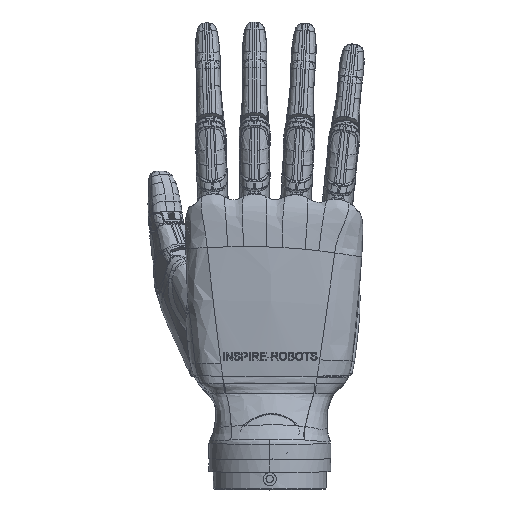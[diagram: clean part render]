
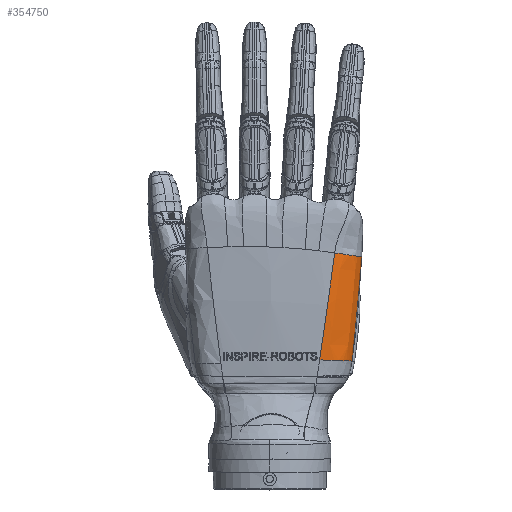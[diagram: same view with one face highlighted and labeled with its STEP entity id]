
A CAD part, front view. The second image highlights one B-rep face of the part: STEP entity #354750.
In plain terms, the highlighted free-form (B-spline) face has degree [5, 5] with [6, 8] control points.
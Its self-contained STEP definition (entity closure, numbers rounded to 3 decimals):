
#13976 = CARTESIAN_POINT ( 'NONE',  ( 29.061, -19.487, 70.16 ) ) ;
#16056 = CARTESIAN_POINT ( 'NONE',  ( 41.82, -14.111, 94.806 ) ) ;
#18130 = CARTESIAN_POINT ( 'NONE',  ( 38.441, -7.92, 53.319 ) ) ;
#18694 = EDGE_CURVE ( 'NONE', #392304, #359416, #75273, .T. ) ;
#23488 = B_SPLINE_CURVE_WITH_KNOTS ( 'NONE', 5,
 ( #178738, #225265, #227339, #564537, #275754, #613015 ),
 .UNSPECIFIED., .F., .F.,
 ( 6, 6 ),
 ( 0., 1. ),
 .UNSPECIFIED. ) ;
#44145 = B_SPLINE_SURFACE_WITH_KNOTS ( 'NONE', 5, 5, ( 
 ( #201704, #60417, #397713, #108720, #446190, #157282, #494625, #205836 ),
 ( #543114, #254336, #591509, #302774, #13976, #351213, #62502, #399754 ),
 ( #110798, #448259, #159338, #496694, #207885, #545166, #256421, #593593 ),
 ( #304856, #16056, #353309, #64578, #401852, #112867, #450362, #161423 ),
 ( #498767, #209971, #547250, #258514, #595660, #306941, #18130, #355398 ),
 ( #66623, #403948, #114967, #452451, #163512, #500868, #212054, #549339 ) ),
 .UNSPECIFIED., .F., .F., .F.,
 ( 6, 6 ),
 ( 6, 1, 1, 6 ),
 ( 0., 1. ),
 ( 0., 0.333, 0.667, 1. ),
 .UNSPECIFIED. ) ;
#60417 = CARTESIAN_POINT ( 'NONE',  ( 29.699, -19.683, 96.458 ) ) ;
#62502 = CARTESIAN_POINT ( 'NONE',  ( 26.676, -18.471, 53.798 ) ) ;
#64578 = CARTESIAN_POINT ( 'NONE',  ( 40.835, -13.685, 78.928 ) ) ;
#66623 = CARTESIAN_POINT ( 'NONE',  ( 42.482, -6.356, 97.891 ) ) ;
#75273 = B_SPLINE_CURVE_WITH_KNOTS ( 'NONE', 5,
 ( #228432, #565579, #517185, #179822, #468713, #131291 ),
 .UNSPECIFIED., .F., .F.,
 ( 6, 6 ),
 ( 0., 1. ),
 .UNSPECIFIED. ) ;
#104141 = CARTESIAN_POINT ( 'NONE',  ( 36.16, -18.556, 98.816 ) ) ;
#108720 = CARTESIAN_POINT ( 'NONE',  ( 27.492, -20.113, 80.206 ) ) ;
#110798 = CARTESIAN_POINT ( 'NONE',  ( 36.16, -18.556, 98.816 ) ) ;
#112867 = CARTESIAN_POINT ( 'NONE',  ( 39.037, -13.14, 59.808 ) ) ;
#114967 = CARTESIAN_POINT ( 'NONE',  ( 41.92, -6.289, 88.384 ) ) ;
#121302 = CARTESIAN_POINT ( 'NONE',  ( 23.202, -18.591, 50.611 ) ) ;
#131291 = CARTESIAN_POINT ( 'NONE',  ( 23.202, -18.591, 50.611 ) ) ;
#133416 = CARTESIAN_POINT ( 'NONE',  ( 24.657, -19.452, 60.601 ) ) ;
#152646 = CARTESIAN_POINT ( 'NONE',  ( 42.366, -9.671, 97.901 ) ) ;
#157282 = CARTESIAN_POINT ( 'NONE',  ( 24.654, -19.379, 60.566 ) ) ;
#159338 = CARTESIAN_POINT ( 'NONE',  ( 35.3, -18.884, 89.184 ) ) ;
#161423 = CARTESIAN_POINT ( 'NONE',  ( 37.78, -12.672, 50.122 ) ) ;
#163512 = CARTESIAN_POINT ( 'NONE',  ( 40.386, -6.154, 69.35 ) ) ;
#178738 = CARTESIAN_POINT ( 'NONE',  ( 42.482, -6.356, 97.891 ) ) ;
#179822 = CARTESIAN_POINT ( 'NONE',  ( 31.358, -17.407, 50.304 ) ) ;
#201704 = CARTESIAN_POINT ( 'NONE',  ( 30.121, -19.506, 99.706 ) ) ;
#205836 = CARTESIAN_POINT ( 'NONE',  ( 23.202, -18.591, 50.611 ) ) ;
#207885 = CARTESIAN_POINT ( 'NONE',  ( 33.631, -18.761, 69.844 ) ) ;
#209971 = CARTESIAN_POINT ( 'NONE',  ( 42.189, -9.763, 94.733 ) ) ;
#210073 = VERTEX_POINT ( 'NONE', #286289 ) ;
#212054 = CARTESIAN_POINT ( 'NONE',  ( 38.497, -6.039, 53.308 ) ) ;
#225265 = CARTESIAN_POINT ( 'NONE',  ( 41.945, -6.287, 88.083 ) ) ;
#227339 = CARTESIAN_POINT ( 'NONE',  ( 41.211, -6.217, 78.293 ) ) ;
#228432 = CARTESIAN_POINT ( 'NONE',  ( 38.031, -6.016, 50.072 ) ) ;
#230563 = CARTESIAN_POINT ( 'NONE',  ( 26.097, -19.983, 70.434 ) ) ;
#246041 = EDGE_CURVE ( 'NONE', #210073, #306547, #454461, .T. ) ;
#254336 = CARTESIAN_POINT ( 'NONE',  ( 32.635, -19.245, 96.054 ) ) ;
#256421 = CARTESIAN_POINT ( 'NONE',  ( 31.774, -17.698, 53.58 ) ) ;
#258514 = CARTESIAN_POINT ( 'NONE',  ( 41.134, -9.094, 78.892 ) ) ;
#275754 = CARTESIAN_POINT ( 'NONE',  ( 39.321, -6.08, 59.024 ) ) ;
#278982 = CARTESIAN_POINT ( 'NONE',  ( 28.854, -20.038, 89.961 ) ) ;
#286289 = CARTESIAN_POINT ( 'NONE',  ( 30.121, -19.506, 99.706 ) ) ;
#302774 = CARTESIAN_POINT ( 'NONE',  ( 30.394, -19.678, 79.897 ) ) ;
#304856 = CARTESIAN_POINT ( 'NONE',  ( 42.019, -13.651, 97.925 ) ) ;
#306547 = VERTEX_POINT ( 'NONE', #474000 ) ;
#306941 = CARTESIAN_POINT ( 'NONE',  ( 39.271, -8.255, 59.765 ) ) ;
#337796 = ORIENTED_EDGE ( 'NONE', *, *, #18694, .F. ) ;
#341125 = ORIENTED_EDGE ( 'NONE', *, *, #460082, .F. ) ;
#344531 = CARTESIAN_POINT ( 'NONE',  ( 30.121, -19.506, 99.706 ) ) ;
#351213 = CARTESIAN_POINT ( 'NONE',  ( 27.653, -18.964, 60.373 ) ) ;
#353309 = CARTESIAN_POINT ( 'NONE',  ( 41.442, -14.288, 88.492 ) ) ;
#354750 = ADVANCED_FACE ( 'NONE', ( #509627 ), #44145, .F. ) ;
#355398 = CARTESIAN_POINT ( 'NONE',  ( 37.98, -7.744, 50.082 ) ) ;
#359416 = VERTEX_POINT ( 'NONE', #121302 ) ;
#371666 = B_SPLINE_CURVE_WITH_KNOTS ( 'NONE', 5,
 ( #470821, #133416, #230563, #567706, #278982, #616233 ),
 .UNSPECIFIED., .F., .F.,
 ( 6, 6 ),
 ( 0., 1. ),
 .UNSPECIFIED. ) ;
#392304 = VERTEX_POINT ( 'NONE', #550418 ) ;
#394531 = ORIENTED_EDGE ( 'NONE', *, *, #430915, .F. ) ;
#397713 = CARTESIAN_POINT ( 'NONE',  ( 28.836, -19.955, 89.961 ) ) ;
#399754 = CARTESIAN_POINT ( 'NONE',  ( 26.177, -18.189, 50.496 ) ) ;
#401852 = CARTESIAN_POINT ( 'NONE',  ( 40.032, -13.486, 69.403 ) ) ;
#403948 = CARTESIAN_POINT ( 'NONE',  ( 42.309, -6.334, 94.721 ) ) ;
#422482 = EDGE_LOOP ( 'NONE', ( #341125, #337796, #394531, #615931 ) ) ;
#430915 = EDGE_CURVE ( 'NONE', #306547, #392304, #23488, .T. ) ;
#441621 = CARTESIAN_POINT ( 'NONE',  ( 42.019, -13.651, 97.925 ) ) ;
#446190 = CARTESIAN_POINT ( 'NONE',  ( 26.09, -19.913, 70.422 ) ) ;
#448259 = CARTESIAN_POINT ( 'NONE',  ( 35.834, -18.688, 95.605 ) ) ;
#450362 = CARTESIAN_POINT ( 'NONE',  ( 38.229, -12.838, 53.361 ) ) ;
#452451 = CARTESIAN_POINT ( 'NONE',  ( 41.228, -6.221, 78.878 ) ) ;
#454461 = B_SPLINE_CURVE_WITH_KNOTS ( 'NONE', 5,
 ( #344531, #534378, #104141, #441621, #152646, #490066 ),
 .UNSPECIFIED., .F., .F.,
 ( 6, 6 ),
 ( 0., 1. ),
 .UNSPECIFIED. ) ;
#460082 = EDGE_CURVE ( 'NONE', #359416, #210073, #371666, .T. ) ;
#468713 = CARTESIAN_POINT ( 'NONE',  ( 26.177, -18.189, 50.496 ) ) ;
#470821 = CARTESIAN_POINT ( 'NONE',  ( 23.202, -18.591, 50.611 ) ) ;
#474000 = CARTESIAN_POINT ( 'NONE',  ( 42.482, -6.356, 97.891 ) ) ;
#490066 = CARTESIAN_POINT ( 'NONE',  ( 42.482, -6.356, 97.891 ) ) ;
#494625 = CARTESIAN_POINT ( 'NONE',  ( 23.687, -18.878, 53.94 ) ) ;
#496694 = CARTESIAN_POINT ( 'NONE',  ( 34.578, -18.966, 79.528 ) ) ;
#498767 = CARTESIAN_POINT ( 'NONE',  ( 42.366, -9.671, 97.901 ) ) ;
#500868 = CARTESIAN_POINT ( 'NONE',  ( 39.337, -6.085, 59.753 ) ) ;
#509627 = FACE_OUTER_BOUND ( 'NONE', #422482, .T. ) ;
#517185 = CARTESIAN_POINT ( 'NONE',  ( 37.78, -12.672, 50.122 ) ) ;
#534378 = CARTESIAN_POINT ( 'NONE',  ( 32.822, -19.11, 99.32 ) ) ;
#543114 = CARTESIAN_POINT ( 'NONE',  ( 32.822, -19.11, 99.32 ) ) ;
#545166 = CARTESIAN_POINT ( 'NONE',  ( 32.559, -18.208, 60.109 ) ) ;
#547250 = CARTESIAN_POINT ( 'NONE',  ( 41.806, -9.641, 88.398 ) ) ;
#549339 = CARTESIAN_POINT ( 'NONE',  ( 38.031, -6.016, 50.072 ) ) ;
#550418 = CARTESIAN_POINT ( 'NONE',  ( 38.031, -6.016, 50.072 ) ) ;
#564537 = CARTESIAN_POINT ( 'NONE',  ( 40.355, -6.148, 68.564 ) ) ;
#565579 = CARTESIAN_POINT ( 'NONE',  ( 37.98, -7.744, 50.082 ) ) ;
#567706 = CARTESIAN_POINT ( 'NONE',  ( 27.505, -20.196, 80.208 ) ) ;
#591509 = CARTESIAN_POINT ( 'NONE',  ( 31.91, -19.487, 89.575 ) ) ;
#593593 = CARTESIAN_POINT ( 'NONE',  ( 31.358, -17.407, 50.304 ) ) ;
#595660 = CARTESIAN_POINT ( 'NONE',  ( 40.305, -8.711, 69.363 ) ) ;
#613015 = CARTESIAN_POINT ( 'NONE',  ( 38.031, -6.016, 50.072 ) ) ;
#615931 = ORIENTED_EDGE ( 'NONE', *, *, #246041, .F. ) ;
#616233 = CARTESIAN_POINT ( 'NONE',  ( 30.121, -19.506, 99.706 ) ) ;
